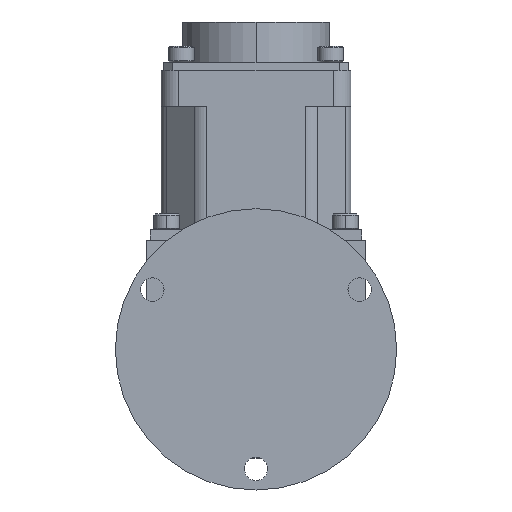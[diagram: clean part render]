
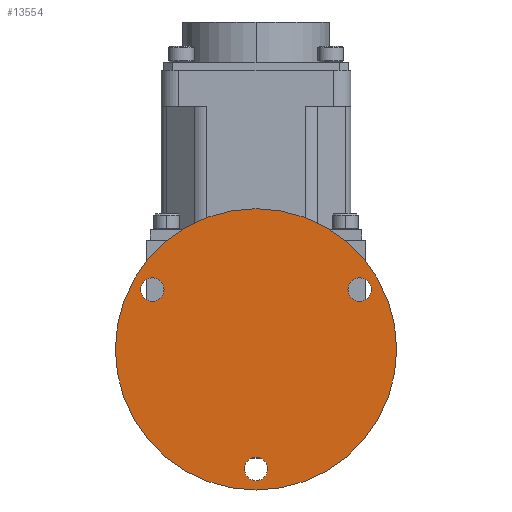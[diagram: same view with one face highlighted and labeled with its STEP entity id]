
A CAD part, front view. The second image highlights one B-rep face of the part: STEP entity #13554.
In plain terms, the highlighted planar face has unit normal (0, -1, 0).
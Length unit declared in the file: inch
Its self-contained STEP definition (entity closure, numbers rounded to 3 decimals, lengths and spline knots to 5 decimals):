
#503 = CARTESIAN_POINT ( 'NONE',  ( 0., 0., 0. ) ) ;
#606 = VERTEX_POINT ( 'NONE', #11575 ) ;
#661 = ORIENTED_EDGE ( 'NONE', *, *, #8479, .T. ) ;
#920 = CARTESIAN_POINT ( 'NONE',  ( 0., 0., -0.85 ) ) ;
#944 = FACE_OUTER_BOUND ( 'NONE', #4091, .T. ) ;
#1095 = DIRECTION ( 'NONE',  ( 0., 1., 0. ) ) ;
#1254 = CARTESIAN_POINT ( 'NONE',  ( 0., 0., 0. ) ) ;
#1362 = CARTESIAN_POINT ( 'NONE',  ( 0., 0., -0.767 ) ) ;
#1421 = CARTESIAN_POINT ( 'NONE',  ( 0., 0., 0.9995 ) ) ;
#1472 = VERTEX_POINT ( 'NONE', #8017 ) ;
#1553 = DIRECTION ( 'NONE',  ( 0., 0., -1. ) ) ;
#1845 = DIRECTION ( 'NONE',  ( 0., 0., 1. ) ) ;
#1982 = EDGE_LOOP ( 'NONE', ( #7540, #661 ) ) ;
#2040 = CIRCLE ( 'NONE', #3791, 0.083 ) ;
#2225 = VERTEX_POINT ( 'NONE', #7391 ) ;
#2642 = CARTESIAN_POINT ( 'NONE',  ( 0.73612, 0., 0.342 ) ) ;
#2790 = CARTESIAN_POINT ( 'NONE',  ( -0.73612, 0., 0.508 ) ) ;
#2869 = EDGE_CURVE ( 'NONE', #7050, #7954, #3524, .T. ) ;
#3480 = EDGE_LOOP ( 'NONE', ( #10405, #6258 ) ) ;
#3524 = CIRCLE ( 'NONE', #11560, 0.083 ) ;
#3700 = DIRECTION ( 'NONE',  ( 0., 0., 1. ) ) ;
#3791 = AXIS2_PLACEMENT_3D ( 'NONE', #3841, #4765, #3700 ) ;
#3841 = CARTESIAN_POINT ( 'NONE',  ( 0.73612, 0., 0.425 ) ) ;
#4091 = EDGE_LOOP ( 'NONE', ( #12239, #7146 ) ) ;
#4261 = DIRECTION ( 'NONE',  ( 0., 0., 1. ) ) ;
#4563 = EDGE_CURVE ( 'NONE', #5153, #1472, #5463, .T. ) ;
#4765 = DIRECTION ( 'NONE',  ( 0., 1., 0. ) ) ;
#4905 = CIRCLE ( 'NONE', #8649, 0.083 ) ;
#5153 = VERTEX_POINT ( 'NONE', #1421 ) ;
#5166 = AXIS2_PLACEMENT_3D ( 'NONE', #9967, #5726, #6803 ) ;
#5237 = VERTEX_POINT ( 'NONE', #2790 ) ;
#5342 = DIRECTION ( 'NONE',  ( 0., -1., 0. ) ) ;
#5386 = DIRECTION ( 'NONE',  ( 0., 0., 1. ) ) ;
#5463 = CIRCLE ( 'NONE', #5166, 0.9995 ) ;
#5540 = CIRCLE ( 'NONE', #12385, 0.083 ) ;
#5726 = DIRECTION ( 'NONE',  ( 0., -1., 0. ) ) ;
#5744 = PLANE ( 'NONE',  #8825 ) ;
#5926 = CARTESIAN_POINT ( 'NONE',  ( 0., 0., -0.933 ) ) ;
#6245 = CARTESIAN_POINT ( 'NONE',  ( -0.73612, 0., 0.425 ) ) ;
#6258 = ORIENTED_EDGE ( 'NONE', *, *, #8362, .T. ) ;
#6409 = CARTESIAN_POINT ( 'NONE',  ( 0., 0., -0.85 ) ) ;
#6414 = VERTEX_POINT ( 'NONE', #2642 ) ;
#6543 = FACE_BOUND ( 'NONE', #1982, .T. ) ;
#6803 = DIRECTION ( 'NONE',  ( 0., 0., -1. ) ) ;
#6891 = FACE_BOUND ( 'NONE', #8591, .T. ) ;
#7050 = VERTEX_POINT ( 'NONE', #1362 ) ;
#7146 = ORIENTED_EDGE ( 'NONE', *, *, #4563, .T. ) ;
#7260 = AXIS2_PLACEMENT_3D ( 'NONE', #1254, #5342, #10592 ) ;
#7272 = DIRECTION ( 'NONE',  ( 0., 0., 1. ) ) ;
#7391 = CARTESIAN_POINT ( 'NONE',  ( 0.73612, 0., 0.508 ) ) ;
#7540 = ORIENTED_EDGE ( 'NONE', *, *, #2869, .T. ) ;
#7574 = ORIENTED_EDGE ( 'NONE', *, *, #12813, .T. ) ;
#7727 = EDGE_CURVE ( 'NONE', #606, #5237, #5540, .T. ) ;
#7863 = DIRECTION ( 'NONE',  ( 0., -1., 0. ) ) ;
#7954 = VERTEX_POINT ( 'NONE', #5926 ) ;
#8017 = CARTESIAN_POINT ( 'NONE',  ( 0., 0., -0.9995 ) ) ;
#8362 = EDGE_CURVE ( 'NONE', #6414, #2225, #2040, .T. ) ;
#8479 = EDGE_CURVE ( 'NONE', #7954, #7050, #10610, .T. ) ;
#8532 = AXIS2_PLACEMENT_3D ( 'NONE', #12650, #1095, #4261 ) ;
#8591 = EDGE_LOOP ( 'NONE', ( #7574, #10183 ) ) ;
#8649 = AXIS2_PLACEMENT_3D ( 'NONE', #6245, #11570, #7272 ) ;
#8721 = CIRCLE ( 'NONE', #8532, 0.083 ) ;
#8825 = AXIS2_PLACEMENT_3D ( 'NONE', #503, #7863, #1553 ) ;
#9349 = DIRECTION ( 'NONE',  ( 0., 1., 0. ) ) ;
#9351 = EDGE_CURVE ( 'NONE', #1472, #5153, #12200, .T. ) ;
#9352 = FACE_BOUND ( 'NONE', #3480, .T. ) ;
#9967 = CARTESIAN_POINT ( 'NONE',  ( 0., 0., 0. ) ) ;
#10183 = ORIENTED_EDGE ( 'NONE', *, *, #7727, .T. ) ;
#10405 = ORIENTED_EDGE ( 'NONE', *, *, #12421, .T. ) ;
#10592 = DIRECTION ( 'NONE',  ( 0., 0., -1. ) ) ;
#10610 = CIRCLE ( 'NONE', #12224, 0.083 ) ;
#10978 = DIRECTION ( 'NONE',  ( 0., 0., 1. ) ) ;
#11560 = AXIS2_PLACEMENT_3D ( 'NONE', #6409, #12603, #5386 ) ;
#11570 = DIRECTION ( 'NONE',  ( 0., 1., 0. ) ) ;
#11575 = CARTESIAN_POINT ( 'NONE',  ( -0.73612, 0., 0.342 ) ) ;
#11989 = DIRECTION ( 'NONE',  ( 0., 1., 0. ) ) ;
#12200 = CIRCLE ( 'NONE', #7260, 0.9995 ) ;
#12224 = AXIS2_PLACEMENT_3D ( 'NONE', #920, #9349, #1845 ) ;
#12239 = ORIENTED_EDGE ( 'NONE', *, *, #9351, .T. ) ;
#12385 = AXIS2_PLACEMENT_3D ( 'NONE', #13059, #11989, #10978 ) ;
#12421 = EDGE_CURVE ( 'NONE', #2225, #6414, #8721, .T. ) ;
#12603 = DIRECTION ( 'NONE',  ( 0., 1., 0. ) ) ;
#12650 = CARTESIAN_POINT ( 'NONE',  ( 0.73612, 0., 0.425 ) ) ;
#12813 = EDGE_CURVE ( 'NONE', #5237, #606, #4905, .T. ) ;
#13059 = CARTESIAN_POINT ( 'NONE',  ( -0.73612, 0., 0.425 ) ) ;
#13554 = ADVANCED_FACE ( 'NONE', ( #6543, #6891, #9352, #944 ), #5744, .T. ) ;
